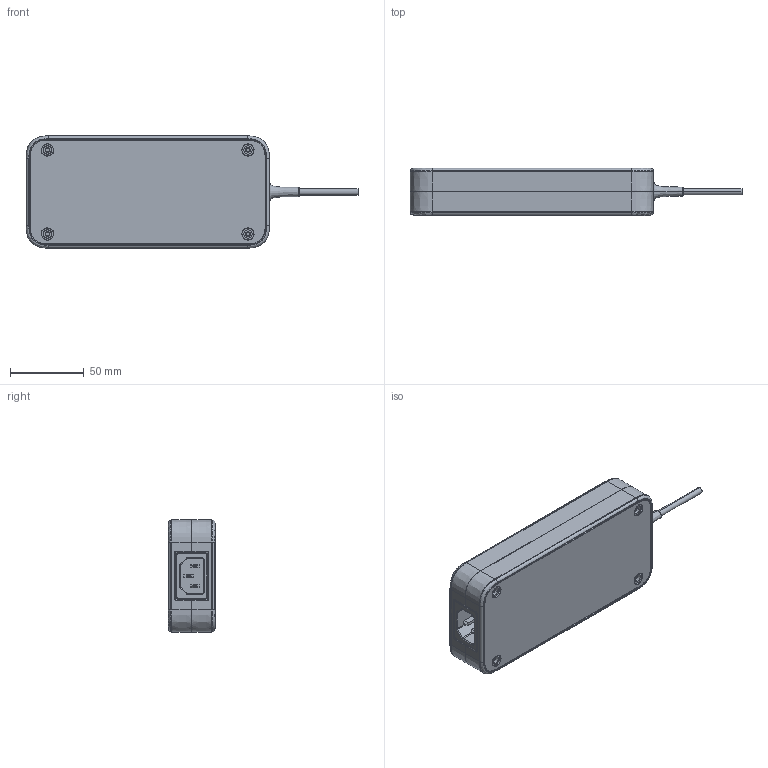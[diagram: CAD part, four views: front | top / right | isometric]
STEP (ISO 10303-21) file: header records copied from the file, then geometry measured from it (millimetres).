
FILE_DESCRIPTION((''),'2;1');
FILE_NAME('150W_ASM','2020-10-27T',('ROCK.WEN'),(''),'PRO/ENGINEER BY PARAMETRIC TECHNOLOGY CORPORATION, 2015240','PRO/ENGINEER BY PARAMETRIC TECHNOLOGY CORPORATION, 2015240','');
FILE_SCHEMA(('CONFIG_CONTROL_DESIGN','SHAPE_APPEARANCE_LAYERS_GROUPS'));
Products named in the file (38): ASUS_230W-0612_ID6_X_T_1_3; SR_1_2; 230W_ASM_3_ASM_2_ASM; PWB; HS1; PIN; PIN_L; BD1; HS1_ASM; HS2; Q2; HS2_ASM; BOT_INSULATOR; BOT_SHIELD; TERMINAL; BOT_SHIELD_ASM; TOP_SHIELD; BLOCK; BLOCK_1; TOP_SHIELD_ASM; SHIELD_ASM; PWB_ASM; MANIFOLD_SOLID_BREP_145_1_1; MANIFOLD_SOLID_BREP_146_1_1; MANIFOLD_SOLID_BREP_147_1_1; MANIFOLD_SOLID_BREP_148_1_1; MANIFOLD_SOLID_BREP_149_1_1; MANIFOLD_SOLID_BREP_151_1_1; MANIFOLD_SOLID_BREP_152_1_1; RD0308ACABE64QT4_ASM_1_ASM_1_ASM; PRT0045_1_1; FN240121H_1_1; SK01-0801010821H_21__ASM_1_ASM__ASM; SK01-08_2_0__ASM_1_ASM; SK01-0801013521-1453_ASM; ADP230W_CHASSIS_WO_LOGO_2; CHASSIS_ASM; 150W_ASM
Assembly tree (41 placements, depth 6):
  150W_ASM
    230W_ASM_3_ASM_2_ASM
      ASUS_230W-0612_ID6_X_T_1_3
      SR_1_2
    PWB_ASM
      PWB
      HS1_ASM
        HS1
        PIN
        PIN_L
        BD1
      HS2_ASM
        HS2
        PIN
        PIN_L
        Q2
      SHIELD_ASM
        BOT_INSULATOR
        BOT_SHIELD_ASM
          BOT_SHIELD
          TERMINAL  x3
        TOP_SHIELD_ASM
          TOP_SHIELD
          BLOCK
          BLOCK_1
    SK01-0801013521-1453_ASM
      SK01-08_2_0__ASM_1_ASM
        SK01-0801010821H_21__ASM_1_ASM__ASM
          RD0308ACABE64QT4_ASM_1_ASM_1_ASM
            MANIFOLD_SOLID_BREP_145_1_1
            MANIFOLD_SOLID_BREP_146_1_1
            MANIFOLD_SOLID_BREP_147_1_1
            MANIFOLD_SOLID_BREP_148_1_1
            MANIFOLD_SOLID_BREP_149_1_1
            MANIFOLD_SOLID_BREP_151_1_1
            MANIFOLD_SOLID_BREP_152_1_1
          PRT0045_1_1
          FN240121H_1_1
    CHASSIS_ASM
      ADP230W_CHASSIS_WO_LOGO_2
Bounding box: 225.18 x 32 x 76.1 mm (x, y, z)
Volume: 163791.5 mm3; surface area: 204457.1 mm2
Topology: 29 solids, 29 shells, 1913 faces, 5107 edges, 3303 vertices
Faces by surface type: plane 1194, cylinder 455, bspline 136, cone 58, torus 52, extrusion 12, sphere 4, revolution 2
Entity records: 72576 total; most frequent: CARTESIAN_POINT 20845, ORIENTED_EDGE 9716, DIRECTION 9128, EDGE_CURVE 4858, VECTOR 3162, LINE 3150, VERTEX_POINT 3145, AXIS2_PLACEMENT_3D 2982
